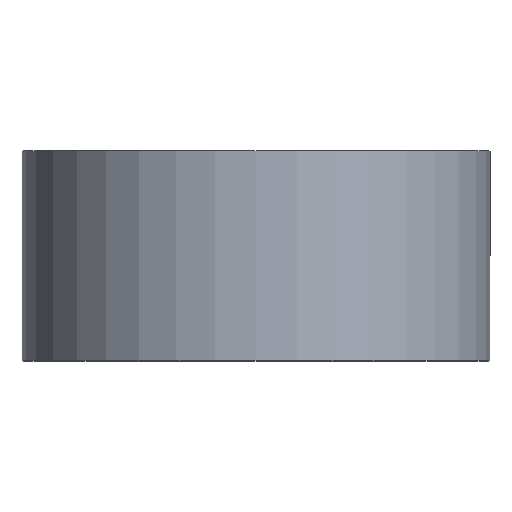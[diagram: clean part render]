
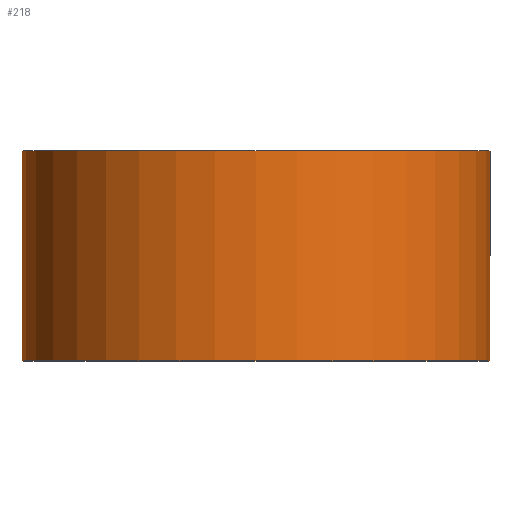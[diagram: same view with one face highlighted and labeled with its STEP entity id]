
A CAD part, top view. The second image highlights one B-rep face of the part: STEP entity #218.
In plain terms, the highlighted cylindrical face has radius 39 mm (diameter 78 mm), a partial arc.
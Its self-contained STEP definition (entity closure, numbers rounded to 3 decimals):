
#5 = EDGE_CURVE ( 'NONE', #184, #90, #158, .T. ) ;
#15 = DIRECTION ( 'NONE',  ( 0., 1., 0. ) ) ;
#16 = DIRECTION ( 'NONE',  ( -1., 0., 0. ) ) ;
#21 = CARTESIAN_POINT ( 'NONE',  ( -39., 0., 0. ) ) ;
#27 = VECTOR ( 'NONE', #110, 1000. ) ;
#30 = AXIS2_PLACEMENT_3D ( 'NONE', #163, #120, #185 ) ;
#32 = CARTESIAN_POINT ( 'NONE',  ( -39., 35., 0. ) ) ;
#43 = CARTESIAN_POINT ( 'NONE',  ( 0., 35., 0. ) ) ;
#66 = AXIS2_PLACEMENT_3D ( 'NONE', #43, #15, #16 ) ;
#75 = EDGE_CURVE ( 'NONE', #256, #90, #96, .T. ) ;
#81 = DIRECTION ( 'NONE',  ( 0., 1., 0. ) ) ;
#90 = VERTEX_POINT ( 'NONE', #152 ) ;
#96 = LINE ( 'NONE', #248, #27 ) ;
#99 = CARTESIAN_POINT ( 'NONE',  ( -39., 0., 0. ) ) ;
#102 = CIRCLE ( 'NONE', #226, 39. ) ;
#110 = DIRECTION ( 'NONE',  ( 0., 1., 0. ) ) ;
#113 = VERTEX_POINT ( 'NONE', #21 ) ;
#120 = DIRECTION ( 'NONE',  ( 0., 1., 0. ) ) ;
#141 = CARTESIAN_POINT ( 'NONE',  ( 0., 0., 0. ) ) ;
#152 = CARTESIAN_POINT ( 'NONE',  ( 39., 35., 0. ) ) ;
#158 = CIRCLE ( 'NONE', #66, 39. ) ;
#163 = CARTESIAN_POINT ( 'NONE',  ( 0., 0., 0. ) ) ;
#178 = ORIENTED_EDGE ( 'NONE', *, *, #75, .T. ) ;
#181 = EDGE_CURVE ( 'NONE', #113, #184, #189, .T. ) ;
#182 = VECTOR ( 'NONE', #81, 1000. ) ;
#184 = VERTEX_POINT ( 'NONE', #32 ) ;
#185 = DIRECTION ( 'NONE',  ( -1., 0., 0. ) ) ;
#188 = EDGE_CURVE ( 'NONE', #113, #256, #102, .T. ) ;
#189 = LINE ( 'NONE', #99, #182 ) ;
#207 = FACE_OUTER_BOUND ( 'NONE', #288, .T. ) ;
#211 = CYLINDRICAL_SURFACE ( 'NONE', #30, 39. ) ;
#216 = CARTESIAN_POINT ( 'NONE',  ( 39., 0., 0. ) ) ;
#217 = DIRECTION ( 'NONE',  ( 0., 1., 0. ) ) ;
#218 = ADVANCED_FACE ( 'NONE', ( #207 ), #211, .T. ) ;
#226 = AXIS2_PLACEMENT_3D ( 'NONE', #141, #217, #255 ) ;
#233 = ORIENTED_EDGE ( 'NONE', *, *, #181, .F. ) ;
#243 = ORIENTED_EDGE ( 'NONE', *, *, #5, .F. ) ;
#248 = CARTESIAN_POINT ( 'NONE',  ( 39., 0., 0. ) ) ;
#255 = DIRECTION ( 'NONE',  ( -1., 0., 0. ) ) ;
#256 = VERTEX_POINT ( 'NONE', #216 ) ;
#288 = EDGE_LOOP ( 'NONE', ( #292, #178, #243, #233 ) ) ;
#292 = ORIENTED_EDGE ( 'NONE', *, *, #188, .T. ) ;
